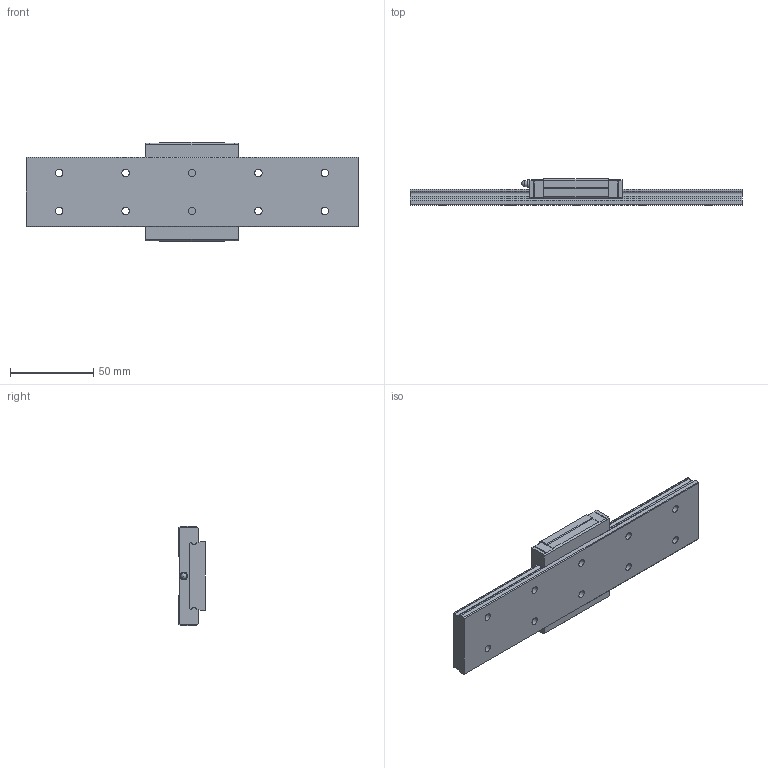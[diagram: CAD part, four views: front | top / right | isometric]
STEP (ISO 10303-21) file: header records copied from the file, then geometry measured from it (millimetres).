
FILE_DESCRIPTION(/* description */ ('STEP AP203'),/* implementation_level */ '2;1');
FILE_NAME(/* name */ 'RSX15M1WUU-200LM_G20_0_PB107_72-25_0_0_0_1',/* time_stamp */ '2024-05-23T08:37:08+02:00',/* author */ ('License CC BY-ND 4.0'),/* organization */ ('CADENAS'),/* preprocessor_version */ 'ST-DEVELOPER v19.3',/* originating_system */ 'PARTsolutions',/* authorisation */ ' ');
FILE_SCHEMA (('CONFIG_CONTROL_DESIGN'));
Length unit declared in the file: millimetre
Products named in the file (4): RSX15M1WUU-200LM_G20_0_PB107_72-25_0_0_0_1; RSX15M1W20020 Track; RSX15M1WUUPB1071 Slider; RSX M1 PB107 grease nipple
Assembly tree (3 placements, depth 2):
  RSX15M1WUU-200LM_G20_0_PB107_72-25_0_0_0_1
    RSX15M1W20020 Track
    RSX15M1WUUPB1071 Slider
    RSX M1 PB107 grease nipple
Bounding box: 200 x 16 x 60 mm (x, y, z)
Volume: 99622.3 mm3; surface area: 32663.4 mm2
Topology: 3 solids, 3 shells, 147 faces, 380 edges, 252 vertices
Faces by surface type: plane 95, cylinder 43, cone 8, sphere 1
Full cylindrical faces by diameter (mm): 3 x3, 3.242 x4, 3.5 x1, 4.5 x11, 8 x10
Entity records: 4349 total; most frequent: CARTESIAN_POINT 729, DIRECTION 724, ORIENTED_EDGE 664, EDGE_CURVE 332, VERTEX_POINT 246, LINE 242, VECTOR 242, AXIS2_PLACEMENT_3D 241
